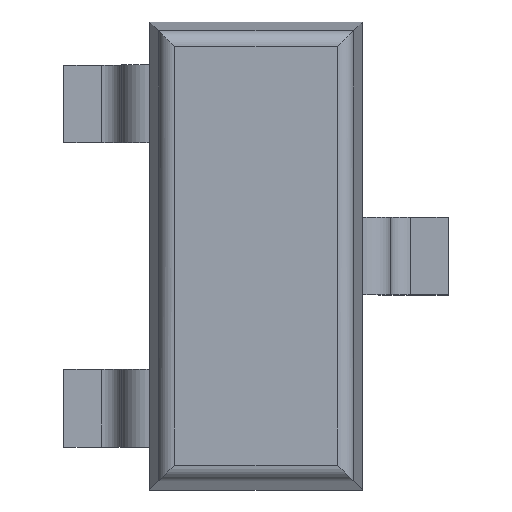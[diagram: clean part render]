
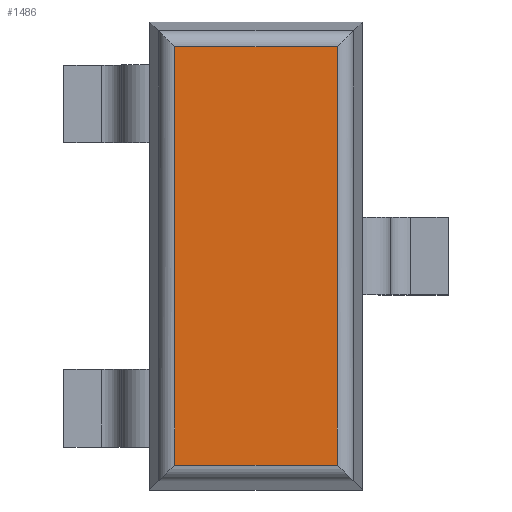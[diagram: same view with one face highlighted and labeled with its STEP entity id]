
A CAD part, top view. The second image highlights one B-rep face of the part: STEP entity #1486.
In plain terms, the highlighted planar face has unit normal (0, 0, 1).
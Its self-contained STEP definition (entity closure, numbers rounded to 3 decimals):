
#1447 = CARTESIAN_POINT ( 'NONE',  ( -0.508, -1.306, 1.2 ) ) ;
#1448 = VERTEX_POINT ( 'NONE', #1447 ) ;
#1449 = CARTESIAN_POINT ( 'NONE',  ( 0.508, -1.306, 1.2 ) ) ;
#1450 = VERTEX_POINT ( 'NONE', #1449 ) ;
#1451 = CARTESIAN_POINT ( 'NONE',  ( 0.592, -1.306, 1.2 ) ) ;
#1452 = DIRECTION ( 'NONE',  ( 1., 0., 0. ) ) ;
#1453 = VECTOR ( 'NONE', #1452, 1000. ) ;
#1454 = LINE ( 'NONE', #1451, #1453 ) ;
#1455 = EDGE_CURVE ( 'NONE', #1448, #1450, #1454, .T. ) ;
#1456 = ORIENTED_EDGE ( 'NONE', *, *, #1455, .T. ) ;
#1457 = CARTESIAN_POINT ( 'NONE',  ( 0.508, 1.306, 1.2 ) ) ;
#1458 = VERTEX_POINT ( 'NONE', #1457 ) ;
#1459 = CARTESIAN_POINT ( 'NONE',  ( 0.508, 1.39, 1.2 ) ) ;
#1460 = DIRECTION ( 'NONE',  ( 0., 1., 0. ) ) ;
#1461 = VECTOR ( 'NONE', #1460, 1000. ) ;
#1462 = LINE ( 'NONE', #1459, #1461 ) ;
#1463 = EDGE_CURVE ( 'NONE', #1450, #1458, #1462, .T. ) ;
#1464 = ORIENTED_EDGE ( 'NONE', *, *, #1463, .T. ) ;
#1465 = CARTESIAN_POINT ( 'NONE',  ( -0.508, 1.306, 1.2 ) ) ;
#1466 = VERTEX_POINT ( 'NONE', #1465 ) ;
#1467 = CARTESIAN_POINT ( 'NONE',  ( -0.592, 1.306, 1.2 ) ) ;
#1468 = DIRECTION ( 'NONE',  ( -1., 0., 0. ) ) ;
#1469 = VECTOR ( 'NONE', #1468, 1000. ) ;
#1470 = LINE ( 'NONE', #1467, #1469 ) ;
#1471 = EDGE_CURVE ( 'NONE', #1458, #1466, #1470, .T. ) ;
#1472 = ORIENTED_EDGE ( 'NONE', *, *, #1471, .T. ) ;
#1473 = CARTESIAN_POINT ( 'NONE',  ( -0.508, -1.39, 1.2 ) ) ;
#1474 = DIRECTION ( 'NONE',  ( 0., -1., 0. ) ) ;
#1475 = VECTOR ( 'NONE', #1474, 1000. ) ;
#1476 = LINE ( 'NONE', #1473, #1475 ) ;
#1477 = EDGE_CURVE ( 'NONE', #1466, #1448, #1476, .T. ) ;
#1478 = ORIENTED_EDGE ( 'NONE', *, *, #1477, .T. ) ;
#1479 = EDGE_LOOP ( 'NONE', ( #1456, #1464, #1472, #1478 ) ) ;
#1480 = FACE_OUTER_BOUND ( 'NONE', #1479, .T. ) ;
#1481 = CARTESIAN_POINT ( 'NONE',  ( 0., 0., 1.2 ) ) ;
#1482 = DIRECTION ( 'NONE',  ( 0., 0., -1. ) ) ;
#1483 = DIRECTION ( 'NONE',  ( 1., 0., 0. ) ) ;
#1484 = AXIS2_PLACEMENT_3D ( 'NONE', #1481, #1482, #1483 ) ;
#1485 = PLANE ( 'NONE', #1484 ) ;
#1486 = ADVANCED_FACE ( 'NONE', ( #1480 ), #1485, .F. ) ;
